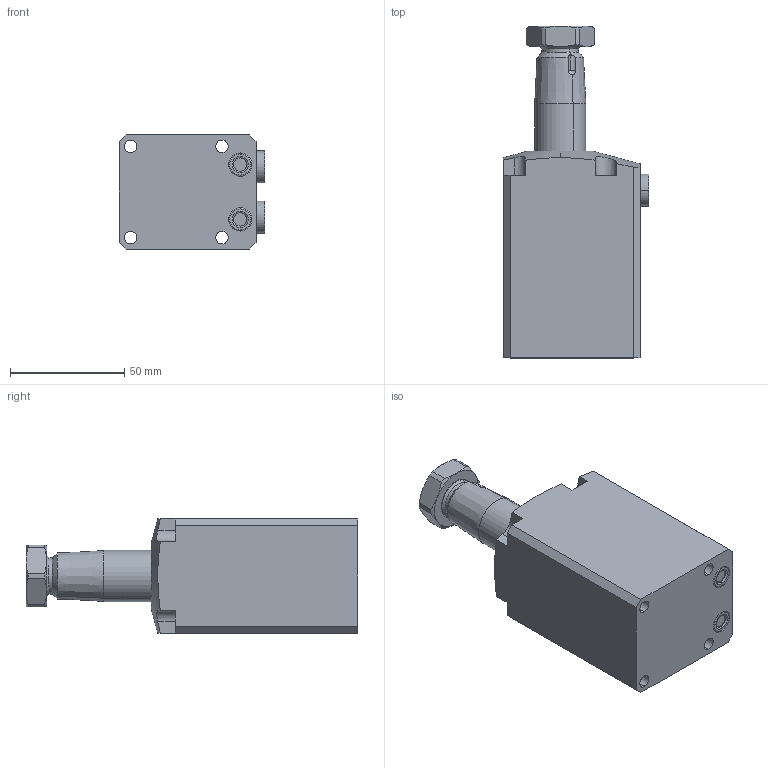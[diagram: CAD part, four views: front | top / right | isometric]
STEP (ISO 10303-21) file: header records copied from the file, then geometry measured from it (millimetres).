
FILE_DESCRIPTION(/* description */ (''),/* implementation_level */ '2;1');
FILE_NAME(/* name */ 'BRC04-LN60.stp',/* time_stamp */ '2025-01-05T08:05:28+08:00',/* author */ (''),/* organization */ (''),/* preprocessor_version */ 'ST-DEVELOPER v16.7',/* originating_system */ 'SIEMENS PLM Software NX 12.0',/* authorisation */ '');
FILE_SCHEMA (('AUTOMOTIVE_DESIGN { 1 0 10303 214 3 1 1 1 }'));
Length unit declared in the file: millimetre
Products named in the file (5): BRC04-LN60-04; BRC04-LN60-03; BRC04-LN60-02; BRC04-LN60-01; BTU04-LN60_step
Assembly tree (5 placements, depth 2):
  BTU04-LN60_step
    BRC04-LN60-01
    BRC04-LN60-02
    BRC04-LN60-03  x2
    BRC04-LN60-04
Bounding box: 63.8 x 145.4 x 50 mm (x, y, z)
Volume: 269509 mm3; surface area: 40291.4 mm2
Topology: 7 solids, 7 shells, 176 faces, 401 edges, 248 vertices
Faces by surface type: plane 68, cylinder 57, cone 34, torus 16, sphere 1
Full cylindrical faces by diameter (mm): 8.5 x2
Entity records: 4666 total; most frequent: CARTESIAN_POINT 963, DIRECTION 778, ORIENTED_EDGE 712, EDGE_CURVE 356, AXIS2_PLACEMENT_3D 313, VERTEX_POINT 222, EDGE_LOOP 180, ADVANCED_FACE 156
